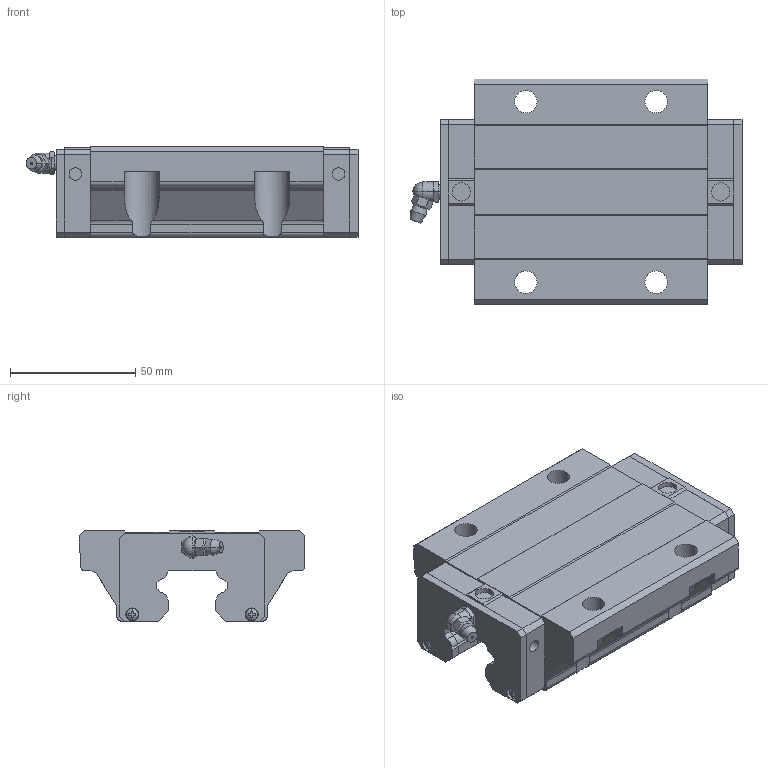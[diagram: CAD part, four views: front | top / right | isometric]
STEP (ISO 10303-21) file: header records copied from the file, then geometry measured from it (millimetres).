
FILE_DESCRIPTION(('starvars output'),'2;1');
FILE_NAME('cv20190626222928000041548.stp','22:29:28 2019/06/26',( 'Thomas Industrial Network Germany GmbH'),( 'Thomas Industrial Network Germany GmbH'),'unknown preprocess','ACIS' ,'unknown authorization');
FILE_SCHEMA(('CONFIG_CONTROL_DESIGN {UNKNOWN IMPLEMENTATION LEVEL}'));
Length unit declared in the file: millimetre
Products named in the file (10): PRODUCT_ID_1; PRODUCT_ID_2; PRODUCT_ID_3; PRODUCT_ID_4; PRODUCT_ID_5; PRODUCT_ID_6; PRODUCT_ID_7; PRODUCT_ID_8; PRODUCT_ID_9; PRODUCT_ID_10
Bounding box: 132.4 x 90 x 36 mm (x, y, z)
Volume: 245797.3 mm3; surface area: 52813.6 mm2
Topology: 10 solids, 10 shells, 393 faces, 1040 edges, 676 vertices
Faces by surface type: plane 262, cylinder 79, cone 40, sphere 12
Entity records: 11905 total; most frequent: CARTESIAN_POINT 2103, ORIENTED_EDGE 2072, DIRECTION 1597, EDGE_CURVE 1036, VERTEX_POINT 676, VECTOR 661, LINE 661, AXIS2_PLACEMENT_3D 468
